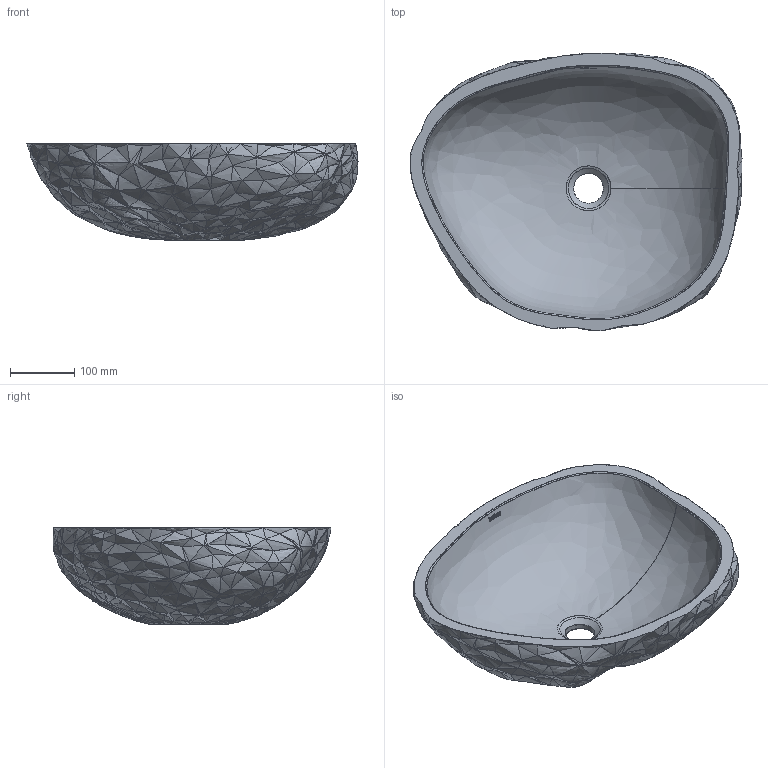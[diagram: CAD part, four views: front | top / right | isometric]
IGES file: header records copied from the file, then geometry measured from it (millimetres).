
Global section: file name: D:\Renovando Conceptos\Trabajos Varios\BathCo\47 Biblioteca Lavabos 3D\00393_Rio\00393_RIO.igs; native system: Rhinoceros ( May  7 2021 ); preprocessor: Trout Lake IGES 012 May  7 2021; date: 221220.153918; units: millimetre
Bounding box: 518.23 x 433.8 x 150 mm (x, y, z)
Surface area: 555588.6 mm2 (no closed solid volume)
Topology: 0 solids, 0 shells, 1236 faces, 5189 edges, 5147 vertices
Faces by surface type: bspline 1236
